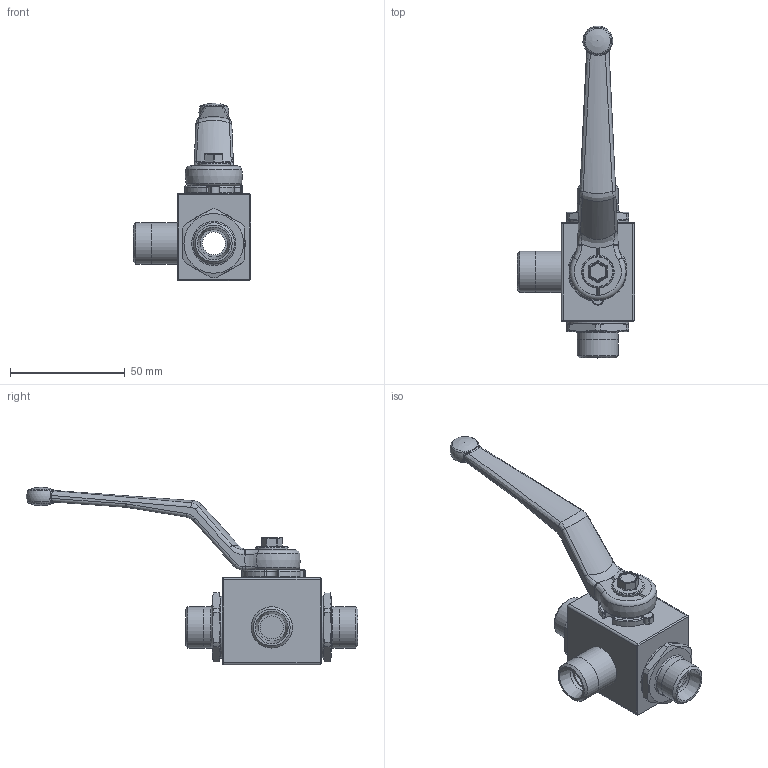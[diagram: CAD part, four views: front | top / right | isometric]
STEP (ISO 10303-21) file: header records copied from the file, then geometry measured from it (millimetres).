
FILE_DESCRIPTION( ( 'Unknown' ), '1' );
FILE_NAME( 'H:/PISTER/3D-MODELLE/BK3 stp/BK3 DN10 12L.stp', 'Unknown', ( 'Unknown' ), ( 'Unknown' ), 'PSStep 14.0', 'Unknown', ' ' );
FILE_SCHEMA( ( 'AUTOMOTIVE_DESIGN { 1 0 10303 214 1 1 1 1 }' ) );
Length unit declared in the file: millimetre
Products named in the file (10): Assem1; 06-010-104-oa7; 09-09-002; 58-28740-07-oa8; Griff_SW9; 58-0933-133; 04-010-101-oa9; 04-010-101-oa10; 04-010-092-oa11; 01-010-044-oa12
Assembly tree (9 placements, depth 2):
  Assem1
    06-010-104-oa7
    09-09-002
    58-28740-07-oa8
    Griff_SW9
    58-0933-133
    04-010-101-oa9
    04-010-101-oa10
    04-010-092-oa11
    01-010-044-oa12
Bounding box: 51 x 144.5 x 77.3 mm (x, y, z)
Volume: 32960.3 mm3; surface area: 28849.8 mm2
Topology: 9 solids, 9 shells, 386 faces, 946 edges, 568 vertices
Faces by surface type: cylinder 129, plane 125, bspline 42, torus 40, cone 30, sphere 20
Full cylindrical faces by diameter (mm): 4.2 x1, 4.98 x1, 5 x1, 10 x3, 12 x3, 14 x2, 14.3 x1, 18 x7, 27 x2, 27.5 x2
Entity records: 15722 total; most frequent: CARTESIAN_POINT 3939, DIRECTION 1843, ORIENTED_EDGE 1692, EDGE_CURVE 846, AXIS2_PLACEMENT_3D 753, VERTEX_POINT 542, EDGE_LOOP 470, FACE_OUTER_BOUND 421
